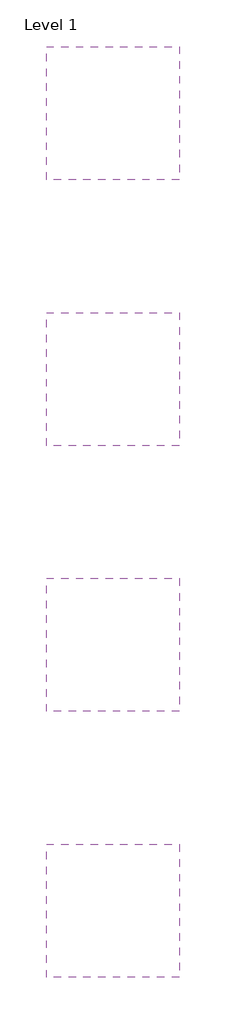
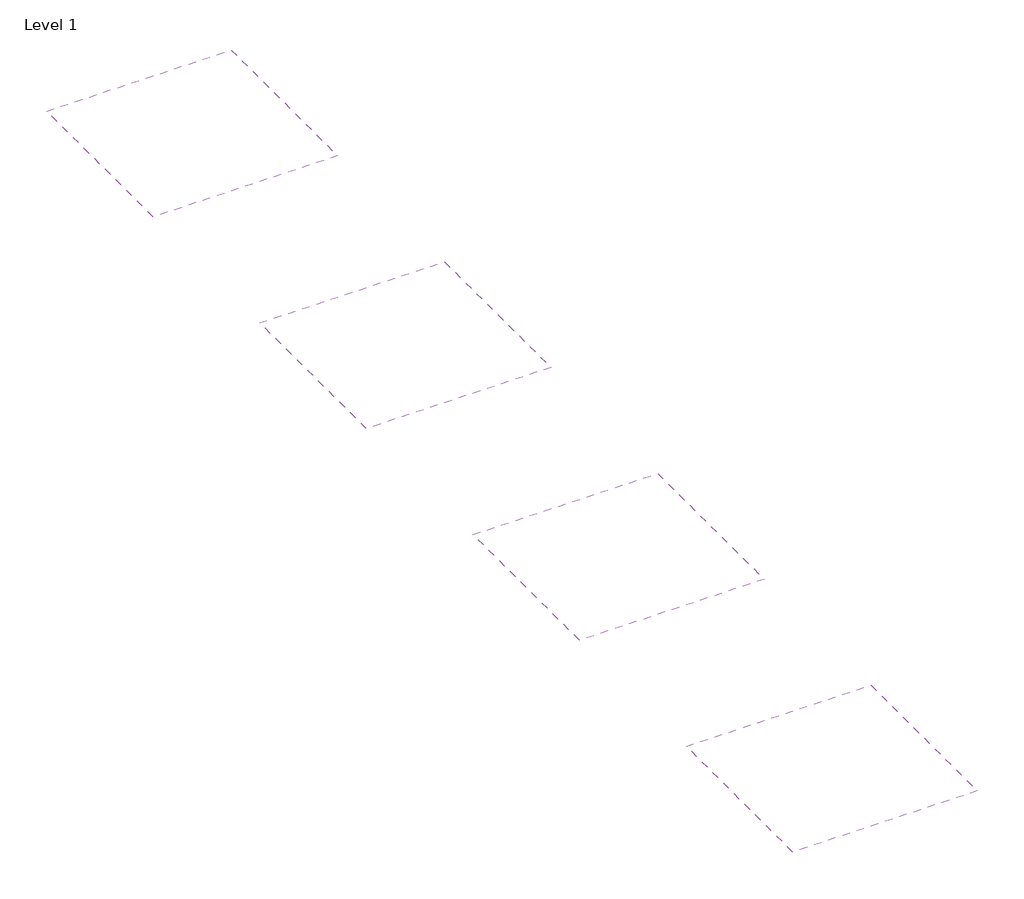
# One storey: 4 coverings.
"""IFC4 building model written with IfcOpenShell, lengths in millimetres."""

from ifc_helpers import new_model, si_unit, frame, origin, place, context, project, spatial, polyline, outline, extrude, element, save

model = new_model("IFC4")

# Units and contexts
model_context = context("Model", 3, world=origin())
ifc_project = project(units=[si_unit("LENGTHUNIT", "METRE", prefix="MILLI")], contexts=[model_context])

# Site, building, storey
site = spatial("IfcSite", under=ifc_project)
building = spatial("IfcBuilding", under=site)
storey = spatial("IfcBuildingStorey", under=building, Name="Level 1", Elevation=0.0)

# Coverings
placement = place(None, origin())
element("IfcCovering", 1, ObjectType="NBS_ArmstrongCeilingsLtd_UnitModularSuspendedCeilingSystem_SaharaTegular-Prelude24Exposed_600x600x15mm_GB", at=placement, inside=storey, context=model_context, shape_type="SweptSolid", body=[
    extrude(outline(polyline([(2500.0, 17500.0), (2500.0, 15000.0), (0.0, 15000.0), (0.0, 17500.0), (2500.0, 17500.0)])), frame((0.0, 0.0, 2600.0), z_axis=(0.0, 0.0, 1.0), x_axis=(1.0, 0.0, 0.0)), (0.0, 0.0, 1.0), 49.5),
])
element("IfcCovering", 2, ObjectType="NBS_ArmstrongCeilingsLtd_UnitModularSuspendedCeilingSystem_SaharaTegular-Prelude24Exposed_625x625x15mm_DE", at=placement, inside=storey, context=model_context, shape_type="SweptSolid", body=[
    extrude(outline(polyline([(2500.0, 12500.0), (2500.0, 10000.0), (0.0, 10000.0), (0.0, 12500.0), (2500.0, 12500.0)])), frame((0.0, 0.0, 2600.0), z_axis=(0.0, 0.0, 1.0), x_axis=(1.0, 0.0, 0.0)), (0.0, 0.0, 1.0), 50.5),
])
element("IfcCovering", 3, ObjectType="NBS_ArmstrongCeilingsLtd_UnitModularSuspendedCeilingSystem_SaharaTegular-Prelude24Exposed_675x675x15mm_FR", at=placement, inside=storey, context=model_context, shape_type="SweptSolid", body=[
    extrude(outline(polyline([(2500.0, 7500.0), (2500.0, 5000.0), (0.0, 5000.0), (0.0, 7500.0), (2500.0, 7500.0)])), frame((0.0, 0.0, 2600.0), z_axis=(0.0, 0.0, 1.0), x_axis=(1.0, 0.0, 0.0)), (0.0, 0.0, 1.0), 49.5),
])
element("IfcCovering", 4, ObjectType="NBS_ArmstrongCeilingsLtd_UnitModularSuspendedCeilingSystem_SaharaTegular-Prelude24Exposed_1200x600x15mm_GB", at=placement, inside=storey, context=model_context, shape_type="SweptSolid", body=[
    extrude(outline(polyline([(2500.0, 2500.0), (2500.0, 0.0), (0.0, 0.0), (0.0, 2500.0), (2500.0, 2500.0)])), frame((0.0, 0.0, 2600.0), z_axis=(0.0, 0.0, 1.0), x_axis=(1.0, 0.0, 0.0)), (0.0, 0.0, 1.0), 49.5),
])

save(model, "model.ifc")
